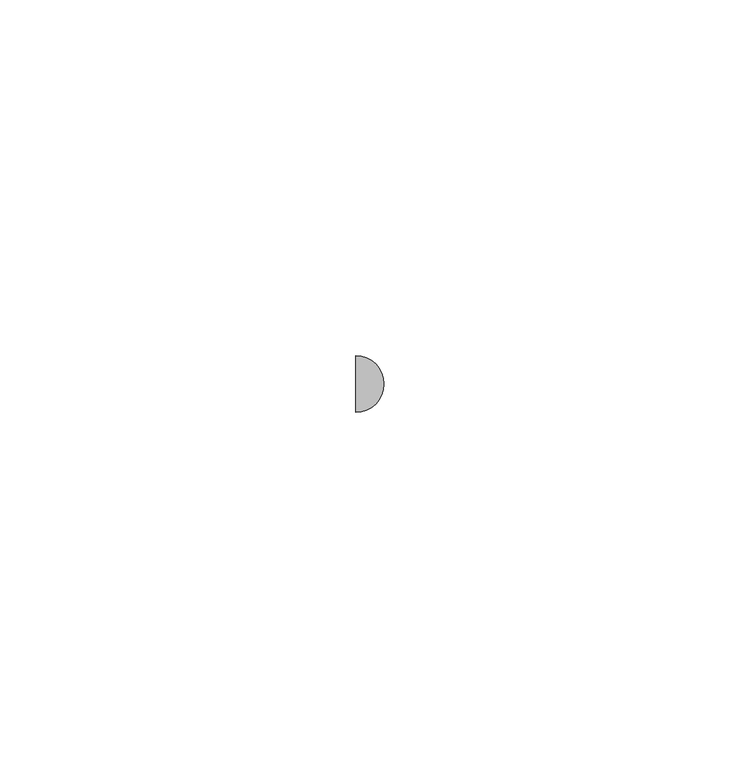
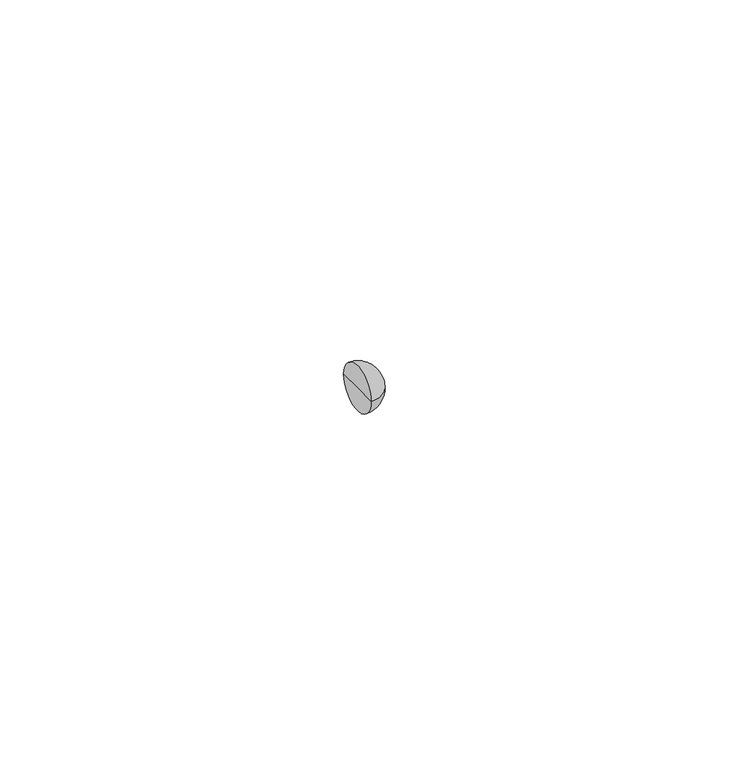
"""IFC4 building model written with IfcOpenShell, lengths in millimetres: pipe fitting geometry, UN_PIF_PP assembled branch S-S_reducing_PipeLife : Black, var. DN/OD (max. ø125)."""

from ifc_helpers import new_model, si_unit, point, frame, origin, place, context, project, spatial, circle_curve, ellipse_curve, trimmed, source, transform, mapped, element, save
from ifc_brep_helpers import plane_surface, revolved_surface, advanced_brep


def pipe_fitting_5509fd96(model_context):
    return source(origin(), model_context, "Body", "AdvancedBrep", [
        advanced_brep(
        [(-112.241248, 0.0, 0.0), (-112.241248, 4.0, 0.0), (-112.241248, -4.0, 0.0), (-108.241248, 0.0, 0.0)],
        [
            (0, 1),
            (1, 2, circle_curve(frame((-112.241248, 0.0, 0.0), z_axis=(-1.0, 0.0, 0.0), x_axis=(0.0, 1.0, 0.0)), 4.0)),
            (2, 0),
            (2, 1, circle_curve(frame((-112.241248, 0.0, 0.0), z_axis=(-1.0, 0.0, 0.0), x_axis=(0.0, 1.0, 0.0)), 4.0)),
            (1, 3, circle_curve(frame((-112.241248, 0.0, 0.0), z_axis=(0.0, 0.0, -1.0), x_axis=(1.0, 0.0, 0.0)), 4.0)),
            (3, 2, circle_curve(frame((-112.241248, 0.0, 0.0), z_axis=(0.0, 0.0, -1.0), x_axis=(1.0, 0.0, 0.0)), 4.0)),
        ],
        [
            plane_surface(frame((-112.241248, 0.0, 0.0), z_axis=(-1.0, 0.0, 0.0), x_axis=(0.0, 1.0, 0.0))),
            revolved_surface(trimmed(ellipse_curve(frame((-112.241248, 0.0, 0.0), z_axis=(0.0, 0.0, 1.0), x_axis=(1.0, 0.0, 0.0)), 4.0, 4.0), [point((-108.241248, 0.0, 0.0))], [point((-112.241248, 4.0, 0.0))], True, "CARTESIAN"), (0.1, 0.0, 0.0), (-1.0, 0.0, 0.0)),
        ],
        [
            (0, [[1, 2, 3]]),
            (0, [[-3, 4, -1]]),
            (1, [[-2, 5, 6]]),
            (1, [[-4, -6, -5]]),
        ],
    ),
    ])


if __name__ == "__main__":
    model = new_model("IFC4")
    model_context = context("Model", 3, world=origin())
    ifc_project = project(units=[si_unit("LENGTHUNIT", "METRE", prefix="MILLI")], contexts=[model_context])
    site = spatial("IfcSite", under=ifc_project)
    building = spatial("IfcBuilding", under=site)
    placement = place(None, origin())
    pipe_fitting_shape = pipe_fitting_5509fd96(model_context)
    element("IfcPipeFitting", 1, ObjectType="UN_PIF_PP assembled branch S-S_reducing_PipeLife : Black, var. DN/OD (max. ø125)", at=placement, inside=building, context=model_context, shape_type="MappedRepresentation", body=[
        mapped(pipe_fitting_shape, transform((0.0, 0.0, 0.0), x_axis=(1.0, 0.0, 0.0), y_axis=(0.0, 1.0, 0.0), z_axis=(0.0, 0.0, 1.0))),
    ])
    save(model, "model.ifc")
